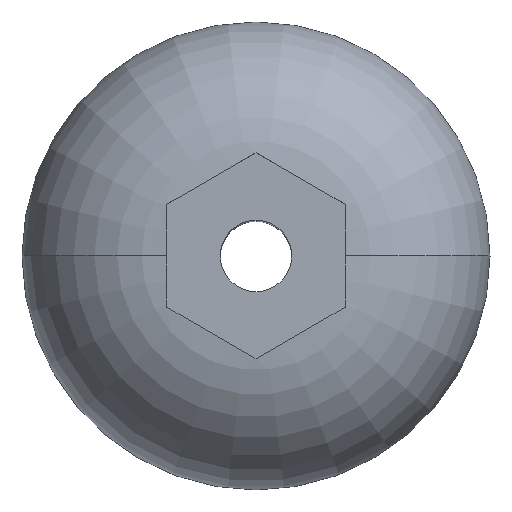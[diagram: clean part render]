
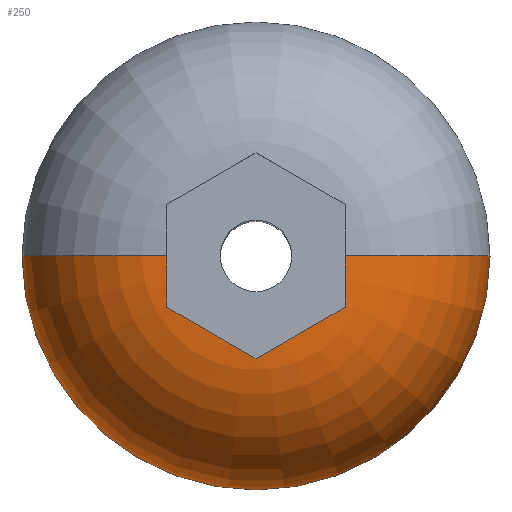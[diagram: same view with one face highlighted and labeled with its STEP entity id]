
A CAD part, top view. The second image highlights one B-rep face of the part: STEP entity #250.
In plain terms, the highlighted toroidal (fillet/blend) face has major radius 1.95 mm and minor radius 3.3 mm.
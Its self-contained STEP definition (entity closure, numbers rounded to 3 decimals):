
#46 = CARTESIAN_POINT ( 'NONE',  ( 0., 0., 0. ) ) ;
#49 = CARTESIAN_POINT ( 'NONE',  ( 1.667, -1.347, 3.301 ) ) ;
#65 = CARTESIAN_POINT ( 'NONE',  ( 2., -1.155, 3.28 ) ) ;
#107 = VERTEX_POINT ( 'NONE', #1601 ) ;
#109 = ORIENTED_EDGE ( 'NONE', *, *, #477, .T. ) ;
#112 = CARTESIAN_POINT ( 'NONE',  ( 2., 0., 3.3 ) ) ;
#119 = CARTESIAN_POINT ( 'NONE',  ( -2., 0., 3.3 ) ) ;
#129 = VERTEX_POINT ( 'NONE', #1167 ) ;
#138 = B_SPLINE_CURVE_WITH_KNOTS ( 'NONE', 3,
 ( #1652, #227, #641, #1682, #377 ),
 .UNSPECIFIED., .F., .F.,
 ( 4, 1, 4 ),
 ( 0., 0.001, 0.002 ),
 .UNSPECIFIED. ) ;
#141 = CARTESIAN_POINT ( 'NONE',  ( -2., -1.155, 3.28 ) ) ;
#180 = DIRECTION ( 'NONE',  ( 0., 0., 1. ) ) ;
#204 = CARTESIAN_POINT ( 'NONE',  ( 0.333, -2.117, 3.301 ) ) ;
#227 = CARTESIAN_POINT ( 'NONE',  ( -0.333, -2.117, 3.301 ) ) ;
#250 = ADVANCED_FACE ( 'NONE', ( #997 ), #379, .T. ) ;
#254 = VERTEX_POINT ( 'NONE', #1496 ) ;
#301 = VERTEX_POINT ( 'NONE', #1329 ) ;
#304 = CARTESIAN_POINT ( 'NONE',  ( 1.95, 0., 0. ) ) ;
#321 = EDGE_CURVE ( 'NONE', #254, #1169, #138, .T. ) ;
#365 = VERTEX_POINT ( 'NONE', #1240 ) ;
#377 = CARTESIAN_POINT ( 'NONE',  ( -2., -1.155, 3.28 ) ) ;
#379 = TOROIDAL_SURFACE ( 'NONE', #1110, 1.95, 3.3 ) ;
#384 = ORIENTED_EDGE ( 'NONE', *, *, #687, .T. ) ;
#416 = CARTESIAN_POINT ( 'NONE',  ( -2., 0., 3.3 ) ) ;
#426 = B_SPLINE_CURVE_WITH_KNOTS ( 'NONE', 3,
 ( #141, #1553, #821, #1823, #960, #119 ),
 .UNSPECIFIED., .F., .F.,
 ( 4, 2, 4 ),
 ( 0.026, 0.026, 0.027 ),
 .UNSPECIFIED. ) ;
#449 = EDGE_LOOP ( 'NONE', ( #1006, #384, #931, #743, #649, #1757, #109 ) ) ;
#461 = DIRECTION ( 'NONE',  ( -1., 0., 0. ) ) ;
#464 = DIRECTION ( 'NONE',  ( 1., 0., 0. ) ) ;
#477 = EDGE_CURVE ( 'NONE', #1169, #927, #426, .T. ) ;
#603 = DIRECTION ( 'NONE',  ( 0., 1., 0. ) ) ;
#641 = CARTESIAN_POINT ( 'NONE',  ( -1., -1.732, 3.298 ) ) ;
#649 = ORIENTED_EDGE ( 'NONE', *, *, #1537, .T. ) ;
#687 = EDGE_CURVE ( 'NONE', #129, #301, #1316, .T. ) ;
#709 = CARTESIAN_POINT ( 'NONE',  ( 2., -1.155, 3.28 ) ) ;
#729 = AXIS2_PLACEMENT_3D ( 'NONE', #1458, #603, #461 ) ;
#743 = ORIENTED_EDGE ( 'NONE', *, *, #1044, .T. ) ;
#821 = CARTESIAN_POINT ( 'NONE',  ( -2., -0.77, 3.295 ) ) ;
#822 = CARTESIAN_POINT ( 'NONE',  ( 2., -0.385, 3.3 ) ) ;
#927 = VERTEX_POINT ( 'NONE', #416 ) ;
#931 = ORIENTED_EDGE ( 'NONE', *, *, #1056, .T. ) ;
#960 = CARTESIAN_POINT ( 'NONE',  ( -2., -0.194, 3.3 ) ) ;
#997 = FACE_OUTER_BOUND ( 'NONE', #449, .T. ) ;
#1006 = ORIENTED_EDGE ( 'NONE', *, *, #1308, .F. ) ;
#1027 = AXIS2_PLACEMENT_3D ( 'NONE', #1460, #180, #464 ) ;
#1044 = EDGE_CURVE ( 'NONE', #365, #107, #1140, .T. ) ;
#1045 = CARTESIAN_POINT ( 'NONE',  ( 1., -1.732, 3.298 ) ) ;
#1056 = EDGE_CURVE ( 'NONE', #301, #365, #1311, .T. ) ;
#1110 = AXIS2_PLACEMENT_3D ( 'NONE', #46, #1192, #1771 ) ;
#1140 = B_SPLINE_CURVE_WITH_KNOTS ( 'NONE', 3,
 ( #112, #1689, #822, #1826, #1711, #709 ),
 .UNSPECIFIED., .F., .F.,
 ( 4, 2, 4 ),
 ( 0., 0.001, 0.001 ),
 .UNSPECIFIED. ) ;
#1146 = B_SPLINE_CURVE_WITH_KNOTS ( 'NONE', 3,
 ( #65, #49, #1045, #204, #1478 ),
 .UNSPECIFIED., .F., .F.,
 ( 4, 1, 4 ),
 ( 0., 0.001, 0.002 ),
 .UNSPECIFIED. ) ;
#1167 = CARTESIAN_POINT ( 'NONE',  ( -5.25, 0., 0. ) ) ;
#1168 = CIRCLE ( 'NONE', #729, 3.3 ) ;
#1169 = VERTEX_POINT ( 'NONE', #1401 ) ;
#1192 = DIRECTION ( 'NONE',  ( 0., 0., 1. ) ) ;
#1240 = CARTESIAN_POINT ( 'NONE',  ( 2., 0., 3.3 ) ) ;
#1299 = DIRECTION ( 'NONE',  ( 0., 0., -1. ) ) ;
#1308 = EDGE_CURVE ( 'NONE', #129, #927, #1168, .T. ) ;
#1311 = CIRCLE ( 'NONE', #1787, 3.3 ) ;
#1316 = CIRCLE ( 'NONE', #1027, 5.25 ) ;
#1329 = CARTESIAN_POINT ( 'NONE',  ( 5.25, 0., 0. ) ) ;
#1401 = CARTESIAN_POINT ( 'NONE',  ( -2., -1.155, 3.28 ) ) ;
#1458 = CARTESIAN_POINT ( 'NONE',  ( -1.95, 0., 0. ) ) ;
#1460 = CARTESIAN_POINT ( 'NONE',  ( 0., 0., 0. ) ) ;
#1478 = CARTESIAN_POINT ( 'NONE',  ( 0., -2.309, 3.28 ) ) ;
#1496 = CARTESIAN_POINT ( 'NONE',  ( 0., -2.309, 3.28 ) ) ;
#1537 = EDGE_CURVE ( 'NONE', #107, #254, #1146, .T. ) ;
#1553 = CARTESIAN_POINT ( 'NONE',  ( -2., -0.963, 3.291 ) ) ;
#1601 = CARTESIAN_POINT ( 'NONE',  ( 2., -1.155, 3.28 ) ) ;
#1652 = CARTESIAN_POINT ( 'NONE',  ( 0., -2.309, 3.28 ) ) ;
#1682 = CARTESIAN_POINT ( 'NONE',  ( -1.667, -1.347, 3.301 ) ) ;
#1689 = CARTESIAN_POINT ( 'NONE',  ( 2., -0.193, 3.3 ) ) ;
#1711 = CARTESIAN_POINT ( 'NONE',  ( 2., -0.963, 3.291 ) ) ;
#1743 = DIRECTION ( 'NONE',  ( 0., -1., 0. ) ) ;
#1757 = ORIENTED_EDGE ( 'NONE', *, *, #321, .T. ) ;
#1771 = DIRECTION ( 'NONE',  ( 1., 0., 0. ) ) ;
#1787 = AXIS2_PLACEMENT_3D ( 'NONE', #304, #1743, #1299 ) ;
#1823 = CARTESIAN_POINT ( 'NONE',  ( -2., -0.385, 3.3 ) ) ;
#1826 = CARTESIAN_POINT ( 'NONE',  ( 2., -0.77, 3.295 ) ) ;
